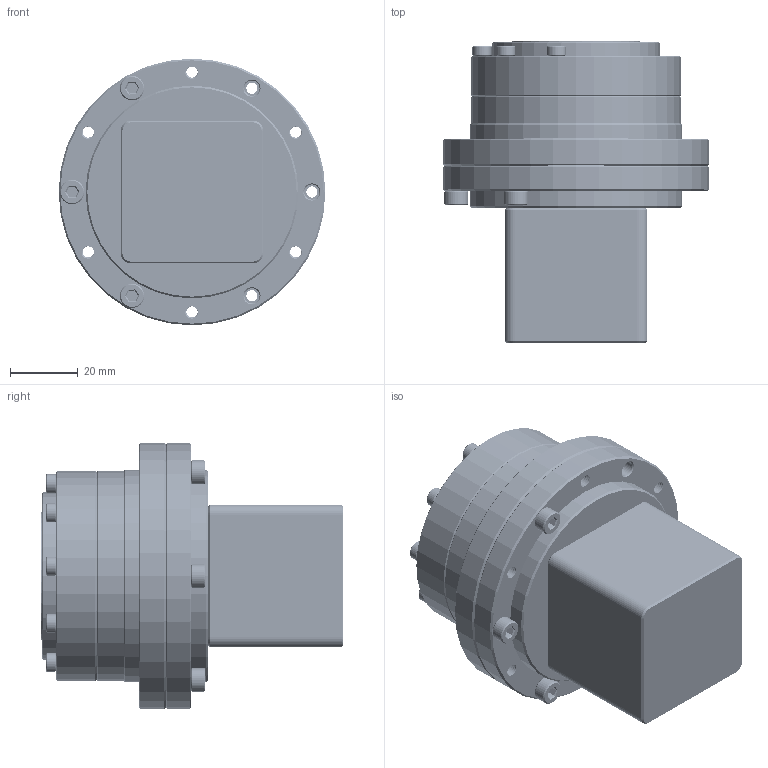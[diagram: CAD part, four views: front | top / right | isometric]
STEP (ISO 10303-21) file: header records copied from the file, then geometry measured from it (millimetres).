
FILE_DESCRIPTION(/* description */ (''),/* implementation_level */ '2;1');
FILE_NAME(/* name */ 'HBG17配42步进电机安装方案.stp',/* time_stamp */ '2022-09-21T09:26:07+08:00',/* author */ (''),/* organization */ (''),/* preprocessor_version */ 'ST-DEVELOPER v16',/* originating_system */ 'SIEMENS PLM Software NX 10.0',/* authorisation */ '');
FILE_SCHEMA (('CONFIG_CONTROL_DESIGN'));
Products named in the file (1): HBG17配42步进电机安装方案
Bounding box: 79 x 89.56 x 79 mm (x, y, z)
Volume: 197630.7 mm3; surface area: 91633.1 mm2
Topology: 42 solids, 42 shells, 1337 faces, 3419 edges, 2212 vertices
Faces by surface type: plane 472, cylinder 457, cone 246, bspline 106, extrusion 35, sphere 12, torus 9
Full cylindrical faces by diameter (mm): 2.5 x11, 3 x150, 3.3 x6, 3.5 x14, 4 x2, 4.5 x12, 5 x45, 5.5 x12, 5.6 x2, 5.68 x5, 7 x1, 7.22 x3, 8.5 x4, 10 x3, 14.5 x1, 22 x2, 27.2 x1, 27.8 x1, 28 x1, 29 x1, 30.3 x1, 31.5 x1, 32.6 x1, 33 x1, 33.1 x1, 33.3 x2, 34 x1, 36 x1, 36.7 x1, 36.8 x1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
Entity records: 238193 total; most frequent: CARTESIAN_POINT 214354, ORIENTED_EDGE 4614, DIRECTION 4335, EDGE_CURVE 2307, EDGE_LOOP 1707, AXIS2_PLACEMENT_3D 1700, VERTEX_POINT 1690, ADVANCED_FACE 1138
